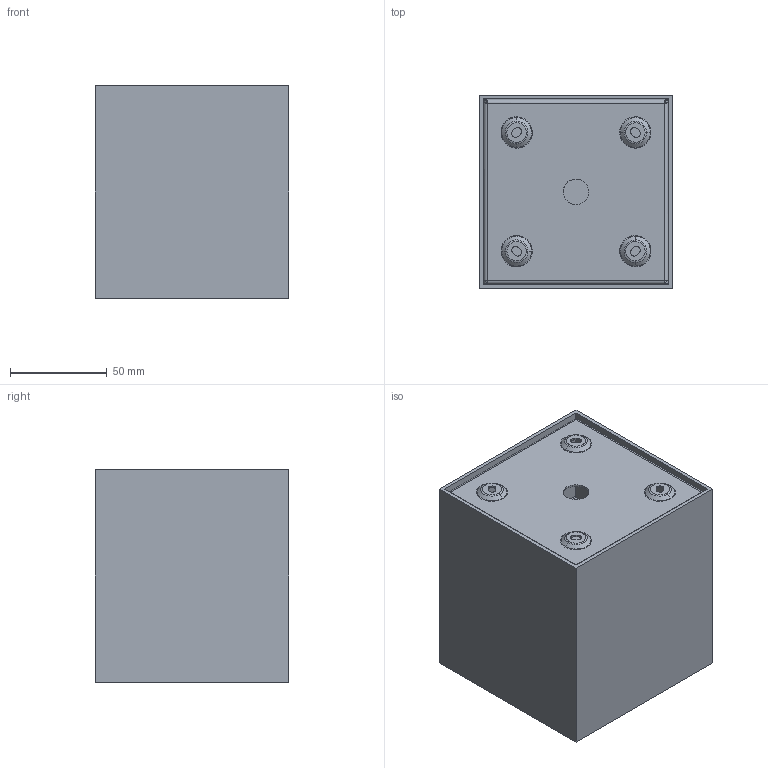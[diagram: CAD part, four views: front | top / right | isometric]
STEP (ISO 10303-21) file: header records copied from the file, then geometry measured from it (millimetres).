
FILE_DESCRIPTION(/* description */ (''),/* implementation_level */ '2;1');
FILE_NAME(/* name */ 'P039.011',/* time_stamp */ '2024-09-02T16:45:22+02:00',/* author */ (''),/* organization */ (''),/* preprocessor_version */ 'ST-DEVELOPER v16.5',/* originating_system */ '',/* authorisation */ '');
FILE_SCHEMA (('AUTOMOTIVE_DESIGN'));
Length unit declared in the file: millimetre
Products named in the file (1): Document
Bounding box: 100 x 100 x 110 mm (x, y, z)
Volume: 154768.5 mm3; surface area: 178965.4 mm2
Topology: 5 solids, 5 shells, 449 faces, 1005 edges, 598 vertices
Faces by surface type: bspline 258, plane 191
Entity records: 21164 total; most frequent: CARTESIAN_POINT 14929, ORIENTED_EDGE 2010, EDGE_CURVE 1005, VERTEX_POINT 598, B_SPLINE_CURVE_WITH_KNOTS 545, EDGE_LOOP 501, ADVANCED_FACE 449, FACE_OUTER_BOUND 449
